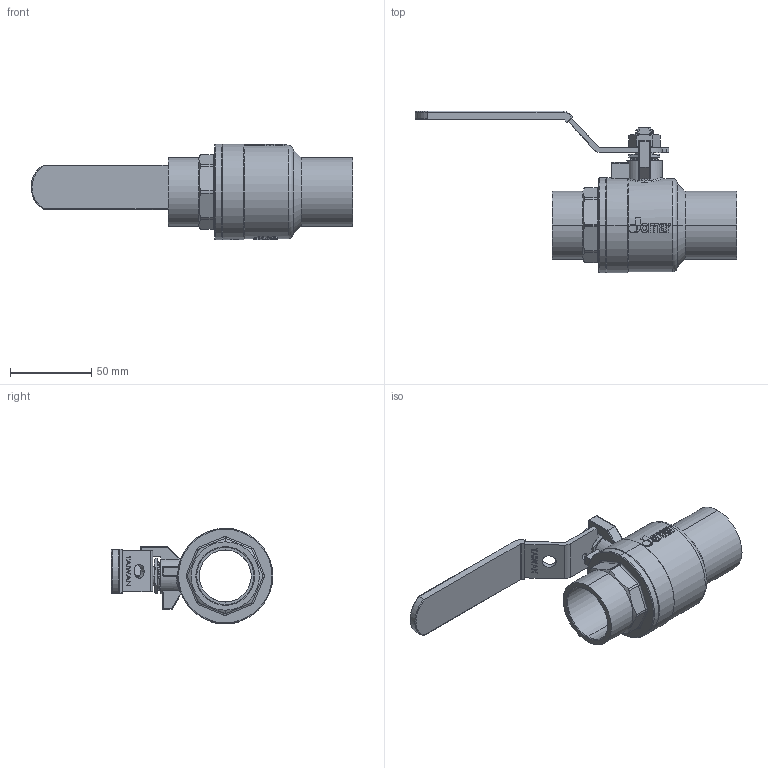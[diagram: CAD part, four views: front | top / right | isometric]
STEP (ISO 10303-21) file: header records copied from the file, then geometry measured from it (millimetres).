
FILE_DESCRIPTION (( 'STEP AP203' ), '1' );
FILE_NAME ('ABL716-無掛鎖-1.25''''CxC球閥體-CxC組合-無鉛 端面無插溝2025.STEP', '2025-06-25T07:07:03', ( '' ), ( '' ), 'SwSTEP 2.0', 'SolidWorks 2018', '' );
FILE_SCHEMA (( 'CONFIG_CONTROL_DESIGN' ));
Length unit declared in the file: millimetre
Products named in the file (13): EBL706A; NGV109; RBL706; DN32-白色膠套-T-200CSSG; ABL716-無掛鎖-1.25''''CxC球閥體-CxC組合-無鉛 端面無插溝2025; EBL706; GBL604; DN32-CBL706-把手組合-無掛鎖(白色T膠套); CBL235-1.25''''通用把手; BBL716A-1.25''''JOMAR球閥CxC帽蓋-無鉛-端面無插溝; BBL716-1.25''''CxC球閥體-無鉛-端面無插溝; EBL306; TBL267A (TBL106)
Assembly tree (13 placements, depth 3):
  ABL716-無掛鎖-1.25''''CxC球閥體-CxC組合-無鉛 端面無插溝2025
    BBL716-1.25''''CxC球閥體-無鉛-端面無插溝
    GBL604
    RBL706
    TBL267A (TBL106)
    EBL706A
    EBL706
    EBL306  x2
    NGV109
    BBL716A-1.25''''JOMAR球閥CxC帽蓋-無鉛-端面無插溝
    DN32-CBL706-把手組合-無掛鎖(白色T膠套)
      CBL235-1.25''''通用把手
      DN32-白色膠套-T-200CSSG
Bounding box: 197.9 x 99.36 x 59 mm (x, y, z)
Volume: 136435.5 mm3; surface area: 84078.8 mm2
Topology: 12 solids, 12 shells, 2219 faces, 5924 edges, 3906 vertices
Faces by surface type: plane 1187, bspline 639, cylinder 281, cone 67, torus 31, sphere 14
Entity records: 114439 total; most frequent: CARTESIAN_POINT 62853, ORIENTED_EDGE 11772, DIRECTION 7943, EDGE_CURVE 5886, VERTEX_POINT 3886, LINE 3679, VECTOR 3679, EDGE_LOOP 2416
